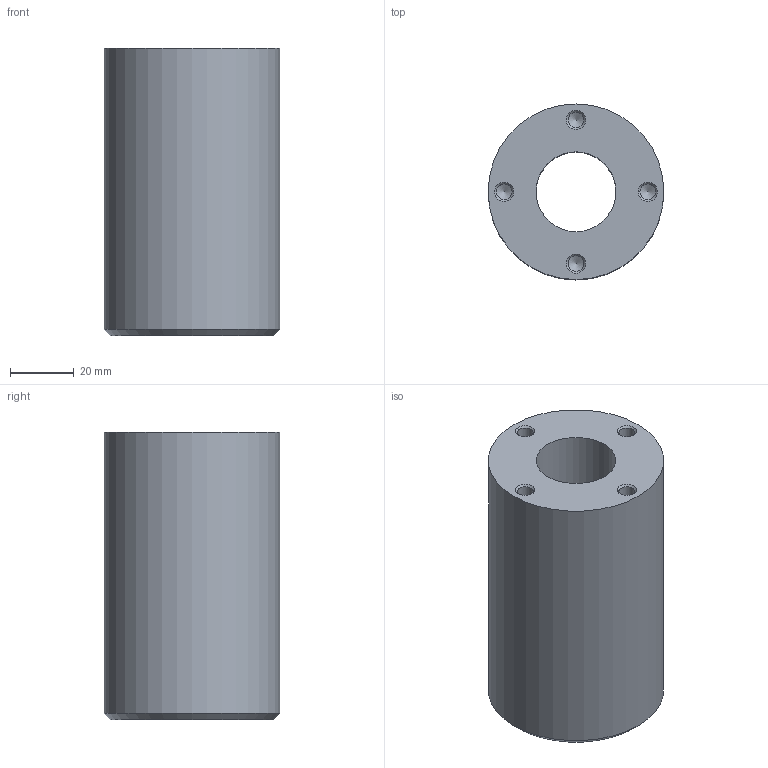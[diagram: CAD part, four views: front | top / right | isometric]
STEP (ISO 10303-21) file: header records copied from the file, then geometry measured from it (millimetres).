
FILE_DESCRIPTION( ( 'STEP AP214' ), '1' );
FILE_NAME( 'U:/Etudes/Top Solid/BIBLIO 3D AVM/STEP/PNEUMATIQUE/GUIDAGES/Accessoires/Paliers/513671_.step', '2005-05-04T12:37:18', ( ' ' ), ( ' ' ), 'XStep 1.0', ' ', ' ' );
FILE_SCHEMA( ( 'automotive_design' ) );
Length unit declared in the file: metre
Products named in the file (1): 1
Bounding box: 55 x 55 x 90 mm (x, y, z)
Volume: 168079.3 mm3; surface area: 27138.3 mm2
Topology: 1 solids, 1 shells, 21 faces, 44 edges, 25 vertices
Faces by surface type: cylinder 10, cone 9, plane 2
Full cylindrical faces by diameter (mm): 4.918 x8, 25 x1, 55 x1
Entity records: 628 total; most frequent: DIRECTION 86, CARTESIAN_POINT 68, AXIS2_PLACEMENT_3D 43, EDGE_LOOP 42, ORIENTED_EDGE 42, FACE_OUTER_BOUND 31, VERTEX_POINT 25, STYLED_ITEM 21
